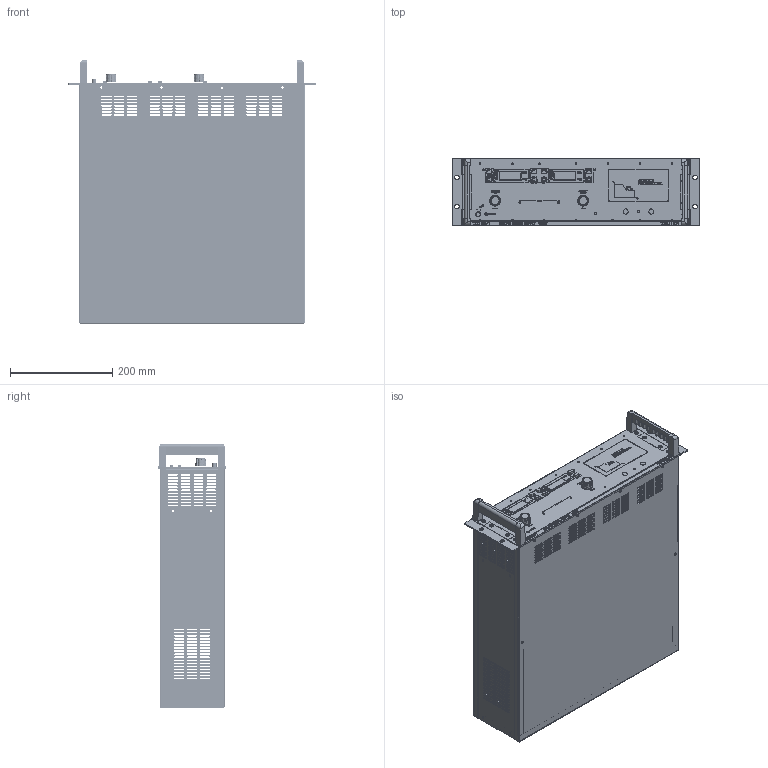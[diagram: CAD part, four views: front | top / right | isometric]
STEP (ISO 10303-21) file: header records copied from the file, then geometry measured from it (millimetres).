
FILE_DESCRIPTION (( 'STEP AP214' ), '1' );
FILE_NAME ('TOE 8871_3d.STEP', '2017-05-04T09:28:35', ( 'KL_' ), ( '' ), 'SwSTEP 2.0', 'SolidWorks 2015', '' );
FILE_SCHEMA (( 'AUTOMOTIVE_DESIGN' ));
Length unit declared in the file: millimetre
Products named in the file (1): TOE 8871_3d
Bounding box: 482.99 x 132.5 x 516 mm (x, y, z)
Surface area: 1496166.7 mm2 (no closed solid volume)
Topology: 0 solids, 214 shells, 2862 faces, 10683 edges, 7900 vertices
Faces by surface type: plane 1456, cylinder 1276, bspline 90, cone 36, torus 4
Entity records: 158573 total; most frequent: CARTESIAN_POINT 34114, DIRECTION 18648, ORIENTED_EDGE 17957, EDGE_CURVE 10673, VERTEX_POINT 7900, LINE 6840, VECTOR 6840, AXIS2_PLACEMENT_3D 5904
